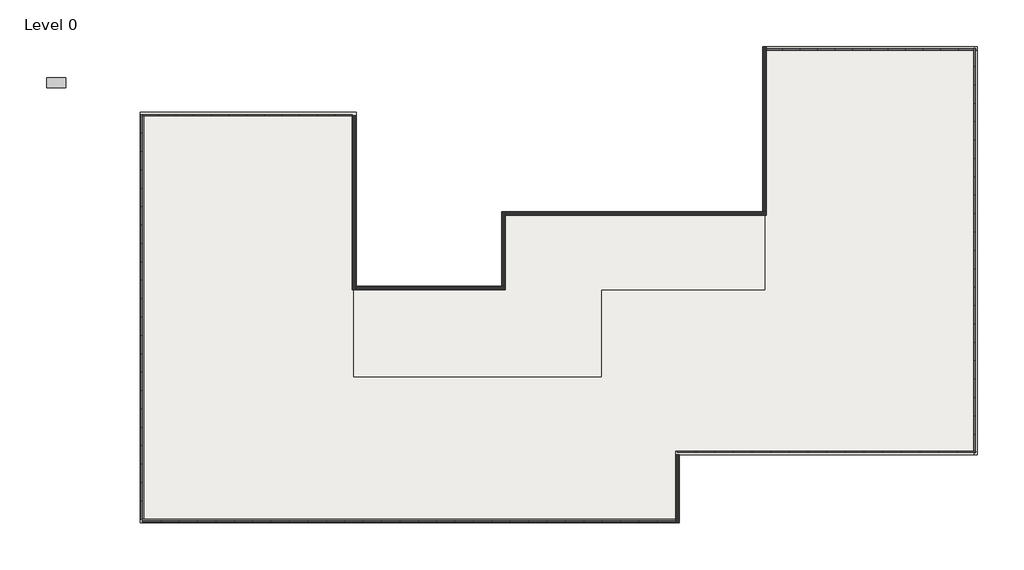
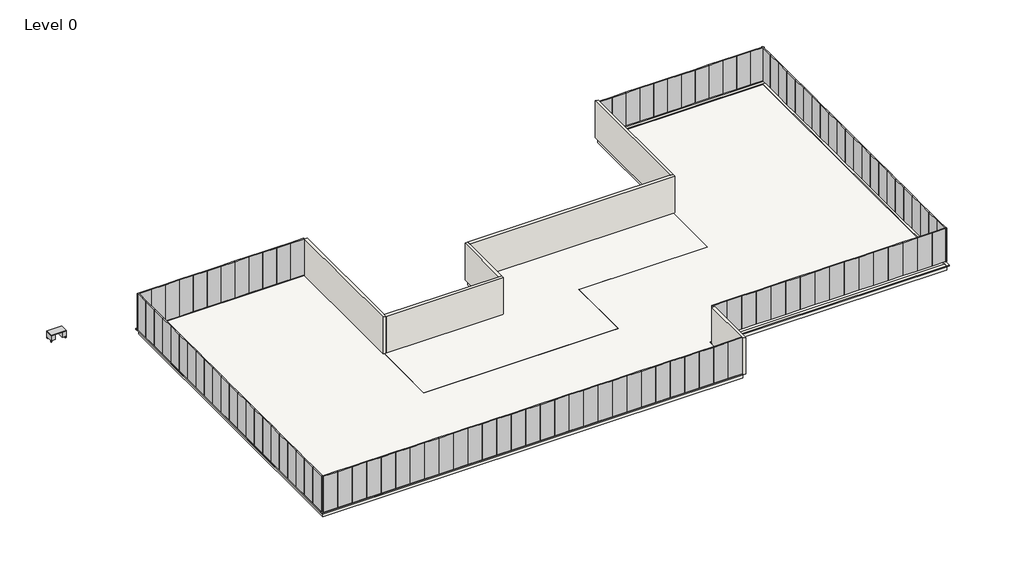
# One storey: 113 plates, 12 walls, 2 slabs, 1 furniture element.
"""IFC4 building model written with IfcOpenShell, lengths in millimetres."""

from ifc_helpers import new_model, si_unit, frame, origin, origin_with_axes, place, context, project, spatial, polyline, outline, extrude, faceted_brep, transform, mapped, element, save
from components import m_desk_1525_x_762mm_d591c397, system_panel_glazed_1c8c9040, system_panel_glazed_b5201366, system_panel_glazed_41508dfd, system_panel_glazed_99405509, system_panel_glazed_24260f19, system_panel_glazed_5fb56a60

model = new_model("IFC4")

# Units and contexts
model_context = context("Model", 3, world=origin())
ifc_project = project(units=[si_unit("LENGTHUNIT", "METRE", prefix="MILLI")], contexts=[model_context])

# Site, building, storey
site = spatial("IfcSite", under=ifc_project)
building = spatial("IfcBuilding", under=site)
storey = spatial("IfcBuildingStorey", under=building, Name="Level 0", Elevation=0.0)

# Furniture
placement = place(None, origin())
m_desk_1525_x_762mm_shape = m_desk_1525_x_762mm_d591c397(model_context)
element("IfcFurniture", 1, ObjectType="M_Desk : 1525 x 762mm", at=placement, inside=storey, context=model_context, shape_type="MappedRepresentation", body=[
    mapped(m_desk_1525_x_762mm_shape, transform((-7595.5542524, 35177.075, 0.0), x_axis=(1.0, 0.0, 0.0), y_axis=(0.0, 1.0, 0.0), z_axis=(0.0, 0.0, 1.0))),
])

# Plates
system_panel_glazed_shape = system_panel_glazed_1c8c9040(model_context)
element("IfcPlate", 2, ObjectType="System Panel : Glazed", at=placement, inside=storey, context=model_context, shape_type="MappedRepresentation", body=[
    mapped(system_panel_glazed_shape, transform((16286.5457475, 33032.075, 100.0), x_axis=(-1.0, 0.0, 0.0), y_axis=(0.0, -1.0, 0.0), z_axis=(0.0, 0.0, 1.0))),
])
element("IfcPlate", 3, ObjectType="System Panel : Glazed", at=placement, inside=storey, context=model_context, shape_type="MappedRepresentation", body=[
    mapped(system_panel_glazed_shape, transform((14864.1457474, 33032.075, 100.0), x_axis=(-1.0, 0.0, 0.0), y_axis=(0.0, -1.0, 0.0), z_axis=(0.0, 0.0, 1.0))),
])
element("IfcPlate", 4, ObjectType="System Panel : Glazed", at=placement, inside=storey, context=model_context, shape_type="MappedRepresentation", body=[
    mapped(system_panel_glazed_shape, transform((13441.7457474, 33032.075, 100.0), x_axis=(-1.0, 0.0, 0.0), y_axis=(0.0, -1.0, 0.0), z_axis=(0.0, 0.0, 1.0))),
])
element("IfcPlate", 5, ObjectType="System Panel : Glazed", at=placement, inside=storey, context=model_context, shape_type="MappedRepresentation", body=[
    mapped(system_panel_glazed_shape, transform((12019.3457475, 33032.075, 100.0), x_axis=(-1.0, 0.0, 0.0), y_axis=(0.0, -1.0, 0.0), z_axis=(0.0, 0.0, 1.0))),
])
element("IfcPlate", 6, ObjectType="System Panel : Glazed", at=placement, inside=storey, context=model_context, shape_type="MappedRepresentation", body=[
    mapped(system_panel_glazed_shape, transform((10596.9457476, 33032.075, 100.0), x_axis=(-1.0, 0.0, 0.0), y_axis=(0.0, -1.0, 0.0), z_axis=(0.0, 0.0, 1.0))),
])
element("IfcPlate", 7, ObjectType="System Panel : Glazed", at=placement, inside=storey, context=model_context, shape_type="MappedRepresentation", body=[
    mapped(system_panel_glazed_shape, transform((9174.5457476, 33032.075, 100.0), x_axis=(-1.0, 0.0, 0.0), y_axis=(0.0, -1.0, 0.0), z_axis=(0.0, 0.0, 1.0))),
])
element("IfcPlate", 8, ObjectType="System Panel : Glazed", at=placement, inside=storey, context=model_context, shape_type="MappedRepresentation", body=[
    mapped(system_panel_glazed_shape, transform((7752.1457477, 33032.075, 100.0), x_axis=(-1.0, 0.0, 0.0), y_axis=(0.0, -1.0, 0.0), z_axis=(0.0, 0.0, 1.0))),
])
element("IfcPlate", 9, ObjectType="System Panel : Glazed", at=placement, inside=storey, context=model_context, shape_type="MappedRepresentation", body=[
    mapped(system_panel_glazed_shape, transform((6329.7457477, 33032.075, 100.0), x_axis=(-1.0, 0.0, 0.0), y_axis=(0.0, -1.0, 0.0), z_axis=(0.0, 0.0, 1.0))),
])
element("IfcPlate", 10, ObjectType="System Panel : Glazed", at=placement, inside=storey, context=model_context, shape_type="MappedRepresentation", body=[
    mapped(system_panel_glazed_shape, transform((4907.3457478, 33032.075, 100.0), x_axis=(-1.0, 0.0, 0.0), y_axis=(0.0, -1.0, 0.0), z_axis=(0.0, 0.0, 1.0))),
])
element("IfcPlate", 11, ObjectType="System Panel : Glazed", at=placement, inside=storey, context=model_context, shape_type="MappedRepresentation", body=[
    mapped(system_panel_glazed_shape, transform((3484.9457478, 33032.075, 100.0), x_axis=(-1.0, 0.0, 0.0), y_axis=(0.0, -1.0, 0.0), z_axis=(0.0, 0.0, 1.0))),
])
element("IfcPlate", 12, ObjectType="System Panel : Glazed", at=placement, inside=storey, context=model_context, shape_type="MappedRepresentation", body=[
    mapped(system_panel_glazed_shape, transform((2062.5457479, 33032.075, 100.0), x_axis=(-1.0, 0.0, 0.0), y_axis=(0.0, -1.0, 0.0), z_axis=(0.0, 0.0, 1.0))),
])
element("IfcPlate", 13, ObjectType="System Panel : Glazed", at=placement, inside=storey, context=model_context, shape_type="MappedRepresentation", body=[
    mapped(system_panel_glazed_shape, transform((640.1457478, 33032.075, 100.0), x_axis=(-1.0, 0.0, 0.0), y_axis=(0.0, -1.0, 0.0), z_axis=(0.0, 0.0, 1.0))),
])
system_panel_glazed_2_shape = system_panel_glazed_b5201366(model_context)
element("IfcPlate", 14, ObjectType="System Panel : Glazed", at=placement, inside=storey, context=model_context, shape_type="MappedRepresentation", body=[
    mapped(system_panel_glazed_2_shape, transform((-71.0542524, 32221.1295453, 100.0), x_axis=(0.0, -1.0, 0.0), y_axis=(1.0, 0.0, 0.0), z_axis=(0.0, 0.0, 1.0))),
])
element("IfcPlate", 15, ObjectType="System Panel : Glazed", at=placement, inside=storey, context=model_context, shape_type="MappedRepresentation", body=[
    mapped(system_panel_glazed_2_shape, transform((-71.0542524, 30742.0386361, 100.0), x_axis=(0.0, -1.0, 0.0), y_axis=(1.0, 0.0, 0.0), z_axis=(0.0, 0.0, 1.0))),
])
element("IfcPlate", 16, ObjectType="System Panel : Glazed", at=placement, inside=storey, context=model_context, shape_type="MappedRepresentation", body=[
    mapped(system_panel_glazed_2_shape, transform((-71.0542524, 29262.947727, 100.0), x_axis=(0.0, -1.0, 0.0), y_axis=(1.0, 0.0, 0.0), z_axis=(0.0, 0.0, 1.0))),
])
element("IfcPlate", 17, ObjectType="System Panel : Glazed", at=placement, inside=storey, context=model_context, shape_type="MappedRepresentation", body=[
    mapped(system_panel_glazed_2_shape, transform((-71.0542524, 27783.856818, 100.0), x_axis=(0.0, -1.0, 0.0), y_axis=(1.0, 0.0, 0.0), z_axis=(0.0, 0.0, 1.0))),
])
element("IfcPlate", 18, ObjectType="System Panel : Glazed", at=placement, inside=storey, context=model_context, shape_type="MappedRepresentation", body=[
    mapped(system_panel_glazed_2_shape, transform((-71.0542524, 26304.7659089, 100.0), x_axis=(0.0, -1.0, 0.0), y_axis=(1.0, 0.0, 0.0), z_axis=(0.0, 0.0, 1.0))),
])
element("IfcPlate", 19, ObjectType="System Panel : Glazed", at=placement, inside=storey, context=model_context, shape_type="MappedRepresentation", body=[
    mapped(system_panel_glazed_2_shape, transform((-71.0542524, 24825.6749998, 100.0), x_axis=(0.0, -1.0, 0.0), y_axis=(1.0, 0.0, 0.0), z_axis=(0.0, 0.0, 1.0))),
])
element("IfcPlate", 20, ObjectType="System Panel : Glazed", at=placement, inside=storey, context=model_context, shape_type="MappedRepresentation", body=[
    mapped(system_panel_glazed_2_shape, transform((-71.0542524, 23346.5840908, 100.0), x_axis=(0.0, -1.0, 0.0), y_axis=(1.0, 0.0, 0.0), z_axis=(0.0, 0.0, 1.0))),
])
element("IfcPlate", 21, ObjectType="System Panel : Glazed", at=placement, inside=storey, context=model_context, shape_type="MappedRepresentation", body=[
    mapped(system_panel_glazed_2_shape, transform((-71.0542524, 21867.4931817, 100.0), x_axis=(0.0, -1.0, 0.0), y_axis=(1.0, 0.0, 0.0), z_axis=(0.0, 0.0, 1.0))),
])
element("IfcPlate", 22, ObjectType="System Panel : Glazed", at=placement, inside=storey, context=model_context, shape_type="MappedRepresentation", body=[
    mapped(system_panel_glazed_2_shape, transform((-71.0542524, 20388.4022726, 100.0), x_axis=(0.0, -1.0, 0.0), y_axis=(1.0, 0.0, 0.0), z_axis=(0.0, 0.0, 1.0))),
])
element("IfcPlate", 23, ObjectType="System Panel : Glazed", at=placement, inside=storey, context=model_context, shape_type="MappedRepresentation", body=[
    mapped(system_panel_glazed_2_shape, transform((-71.0542524, 18909.3113636, 100.0), x_axis=(0.0, -1.0, 0.0), y_axis=(1.0, 0.0, 0.0), z_axis=(0.0, 0.0, 1.0))),
])
element("IfcPlate", 24, ObjectType="System Panel : Glazed", at=placement, inside=storey, context=model_context, shape_type="MappedRepresentation", body=[
    mapped(system_panel_glazed_2_shape, transform((-71.0542524, 17430.2204545, 100.0), x_axis=(0.0, -1.0, 0.0), y_axis=(1.0, 0.0, 0.0), z_axis=(0.0, 0.0, 1.0))),
])
element("IfcPlate", 25, ObjectType="System Panel : Glazed", at=placement, inside=storey, context=model_context, shape_type="MappedRepresentation", body=[
    mapped(system_panel_glazed_2_shape, transform((-71.0542524, 15951.1295454, 100.0), x_axis=(0.0, -1.0, 0.0), y_axis=(1.0, 0.0, 0.0), z_axis=(0.0, 0.0, 1.0))),
])
element("IfcPlate", 26, ObjectType="System Panel : Glazed", at=placement, inside=storey, context=model_context, shape_type="MappedRepresentation", body=[
    mapped(system_panel_glazed_2_shape, transform((-71.0542524, 14472.0386364, 100.0), x_axis=(0.0, -1.0, 0.0), y_axis=(1.0, 0.0, 0.0), z_axis=(0.0, 0.0, 1.0))),
])
element("IfcPlate", 27, ObjectType="System Panel : Glazed", at=placement, inside=storey, context=model_context, shape_type="MappedRepresentation", body=[
    mapped(system_panel_glazed_2_shape, transform((-71.0542524, 12992.9477273, 100.0), x_axis=(0.0, -1.0, 0.0), y_axis=(1.0, 0.0, 0.0), z_axis=(0.0, 0.0, 1.0))),
])
element("IfcPlate", 28, ObjectType="System Panel : Glazed", at=placement, inside=storey, context=model_context, shape_type="MappedRepresentation", body=[
    mapped(system_panel_glazed_2_shape, transform((-71.0542524, 11513.8568183, 100.0), x_axis=(0.0, -1.0, 0.0), y_axis=(1.0, 0.0, 0.0), z_axis=(0.0, 0.0, 1.0))),
])
element("IfcPlate", 29, ObjectType="System Panel : Glazed", at=placement, inside=storey, context=model_context, shape_type="MappedRepresentation", body=[
    mapped(system_panel_glazed_2_shape, transform((-71.0542524, 10034.7659092, 100.0), x_axis=(0.0, -1.0, 0.0), y_axis=(1.0, 0.0, 0.0), z_axis=(0.0, 0.0, 1.0))),
])
element("IfcPlate", 30, ObjectType="System Panel : Glazed", at=placement, inside=storey, context=model_context, shape_type="MappedRepresentation", body=[
    mapped(system_panel_glazed_2_shape, transform((-71.0542524, 8555.6750001, 100.0), x_axis=(0.0, -1.0, 0.0), y_axis=(1.0, 0.0, 0.0), z_axis=(0.0, 0.0, 1.0))),
])
element("IfcPlate", 31, ObjectType="System Panel : Glazed", at=placement, inside=storey, context=model_context, shape_type="MappedRepresentation", body=[
    mapped(system_panel_glazed_2_shape, transform((-71.0542524, 7076.5840911, 100.0), x_axis=(0.0, -1.0, 0.0), y_axis=(1.0, 0.0, 0.0), z_axis=(0.0, 0.0, 1.0))),
])
element("IfcPlate", 32, ObjectType="System Panel : Glazed", at=placement, inside=storey, context=model_context, shape_type="MappedRepresentation", body=[
    mapped(system_panel_glazed_2_shape, transform((-71.0542524, 5597.493182, 100.0), x_axis=(0.0, -1.0, 0.0), y_axis=(1.0, 0.0, 0.0), z_axis=(0.0, 0.0, 1.0))),
])
element("IfcPlate", 33, ObjectType="System Panel : Glazed", at=placement, inside=storey, context=model_context, shape_type="MappedRepresentation", body=[
    mapped(system_panel_glazed_2_shape, transform((-71.0542524, 4118.4022729, 100.0), x_axis=(0.0, -1.0, 0.0), y_axis=(1.0, 0.0, 0.0), z_axis=(0.0, 0.0, 1.0))),
])
element("IfcPlate", 34, ObjectType="System Panel : Glazed", at=placement, inside=storey, context=model_context, shape_type="MappedRepresentation", body=[
    mapped(system_panel_glazed_2_shape, transform((-71.0542524, 2639.3113639, 100.0), x_axis=(0.0, -1.0, 0.0), y_axis=(1.0, 0.0, 0.0), z_axis=(0.0, 0.0, 1.0))),
])
element("IfcPlate", 35, ObjectType="System Panel : Glazed", at=placement, inside=storey, context=model_context, shape_type="MappedRepresentation", body=[
    mapped(system_panel_glazed_2_shape, transform((-71.0542524, 1160.2204547, 100.0), x_axis=(0.0, -1.0, 0.0), y_axis=(1.0, 0.0, 0.0), z_axis=(0.0, 0.0, 1.0))),
])
system_panel_glazed_3_shape = system_panel_glazed_41508dfd(model_context)
element("IfcPlate", 36, ObjectType="System Panel : Glazed", at=placement, inside=storey, context=model_context, shape_type="MappedRepresentation", body=[
    mapped(system_panel_glazed_3_shape, transform((43879.9457478, 5772.075, 450.0), x_axis=(1.0, 0.0, 0.0), y_axis=(0.0, 1.0, 0.0), z_axis=(0.0, 0.0, 1.0))),
])
element("IfcPlate", 37, ObjectType="System Panel : Glazed", at=placement, inside=storey, context=model_context, shape_type="MappedRepresentation", body=[
    mapped(system_panel_glazed_3_shape, transform((45379.9457479, 5772.075, 450.0), x_axis=(1.0, 0.0, 0.0), y_axis=(0.0, 1.0, 0.0), z_axis=(0.0, 0.0, 1.0))),
])
element("IfcPlate", 38, ObjectType="System Panel : Glazed", at=placement, inside=storey, context=model_context, shape_type="MappedRepresentation", body=[
    mapped(system_panel_glazed_3_shape, transform((46879.9457478, 5772.075, 450.0), x_axis=(1.0, 0.0, 0.0), y_axis=(0.0, 1.0, 0.0), z_axis=(0.0, 0.0, 1.0))),
])
element("IfcPlate", 39, ObjectType="System Panel : Glazed", at=placement, inside=storey, context=model_context, shape_type="MappedRepresentation", body=[
    mapped(system_panel_glazed_3_shape, transform((48379.9457478, 5772.075, 450.0), x_axis=(1.0, 0.0, 0.0), y_axis=(0.0, 1.0, 0.0), z_axis=(0.0, 0.0, 1.0))),
])
element("IfcPlate", 40, ObjectType="System Panel : Glazed", at=placement, inside=storey, context=model_context, shape_type="MappedRepresentation", body=[
    mapped(system_panel_glazed_3_shape, transform((49879.9457478, 5772.075, 450.0), x_axis=(1.0, 0.0, 0.0), y_axis=(0.0, 1.0, 0.0), z_axis=(0.0, 0.0, 1.0))),
])
element("IfcPlate", 41, ObjectType="System Panel : Glazed", at=placement, inside=storey, context=model_context, shape_type="MappedRepresentation", body=[
    mapped(system_panel_glazed_3_shape, transform((51379.9457477, 5772.075, 450.0), x_axis=(1.0, 0.0, 0.0), y_axis=(0.0, 1.0, 0.0), z_axis=(0.0, 0.0, 1.0))),
])
element("IfcPlate", 42, ObjectType="System Panel : Glazed", at=placement, inside=storey, context=model_context, shape_type="MappedRepresentation", body=[
    mapped(system_panel_glazed_3_shape, transform((52879.9457477, 5772.075, 450.0), x_axis=(1.0, 0.0, 0.0), y_axis=(0.0, 1.0, 0.0), z_axis=(0.0, 0.0, 1.0))),
])
element("IfcPlate", 43, ObjectType="System Panel : Glazed", at=placement, inside=storey, context=model_context, shape_type="MappedRepresentation", body=[
    mapped(system_panel_glazed_3_shape, transform((54379.9457476, 5772.075, 450.0), x_axis=(1.0, 0.0, 0.0), y_axis=(0.0, 1.0, 0.0), z_axis=(0.0, 0.0, 1.0))),
])
element("IfcPlate", 44, ObjectType="System Panel : Glazed", at=placement, inside=storey, context=model_context, shape_type="MappedRepresentation", body=[
    mapped(system_panel_glazed_3_shape, transform((55879.9457476, 5772.075, 450.0), x_axis=(1.0, 0.0, 0.0), y_axis=(0.0, 1.0, 0.0), z_axis=(0.0, 0.0, 1.0))),
])
element("IfcPlate", 45, ObjectType="System Panel : Glazed", at=placement, inside=storey, context=model_context, shape_type="MappedRepresentation", body=[
    mapped(system_panel_glazed_3_shape, transform((57379.9457476, 5772.075, 450.0), x_axis=(1.0, 0.0, 0.0), y_axis=(0.0, 1.0, 0.0), z_axis=(0.0, 0.0, 1.0))),
])
element("IfcPlate", 46, ObjectType="System Panel : Glazed", at=placement, inside=storey, context=model_context, shape_type="MappedRepresentation", body=[
    mapped(system_panel_glazed_3_shape, transform((58879.9457475, 5772.075, 450.0), x_axis=(1.0, 0.0, 0.0), y_axis=(0.0, 1.0, 0.0), z_axis=(0.0, 0.0, 1.0))),
])
element("IfcPlate", 47, ObjectType="System Panel : Glazed", at=placement, inside=storey, context=model_context, shape_type="MappedRepresentation", body=[
    mapped(system_panel_glazed_3_shape, transform((60379.9457475, 5772.075, 450.0), x_axis=(1.0, 0.0, 0.0), y_axis=(0.0, 1.0, 0.0), z_axis=(0.0, 0.0, 1.0))),
])
element("IfcPlate", 48, ObjectType="System Panel : Glazed", at=placement, inside=storey, context=model_context, shape_type="MappedRepresentation", body=[
    mapped(system_panel_glazed_3_shape, transform((61879.9457475, 5772.075, 450.0), x_axis=(1.0, 0.0, 0.0), y_axis=(0.0, 1.0, 0.0), z_axis=(0.0, 0.0, 1.0))),
])
element("IfcPlate", 49, ObjectType="System Panel : Glazed", at=placement, inside=storey, context=model_context, shape_type="MappedRepresentation", body=[
    mapped(system_panel_glazed_3_shape, transform((63379.9457474, 5772.075, 450.0), x_axis=(1.0, 0.0, 0.0), y_axis=(0.0, 1.0, 0.0), z_axis=(0.0, 0.0, 1.0))),
])
element("IfcPlate", 50, ObjectType="System Panel : Glazed", at=placement, inside=storey, context=model_context, shape_type="MappedRepresentation", body=[
    mapped(system_panel_glazed_3_shape, transform((64879.9457474, 5772.075, 450.0), x_axis=(1.0, 0.0, 0.0), y_axis=(0.0, 1.0, 0.0), z_axis=(0.0, 0.0, 1.0))),
])
element("IfcPlate", 51, ObjectType="System Panel : Glazed", at=placement, inside=storey, context=model_context, shape_type="MappedRepresentation", body=[
    mapped(system_panel_glazed_3_shape, transform((66379.9457475, 5772.075, 450.0), x_axis=(1.0, 0.0, 0.0), y_axis=(0.0, 1.0, 0.0), z_axis=(0.0, 0.0, 1.0))),
])
system_panel_glazed_4_shape = system_panel_glazed_99405509(model_context)
element("IfcPlate", 52, ObjectType="System Panel : Glazed", at=placement, inside=storey, context=model_context, shape_type="MappedRepresentation", body=[
    mapped(system_panel_glazed_4_shape, transform((67129.9457476, 6511.8477274, 450.0), x_axis=(0.0, 1.0, 0.0), y_axis=(-1.0, 0.0, 0.0), z_axis=(0.0, 0.0, 1.0))),
])
element("IfcPlate", 53, ObjectType="System Panel : Glazed", at=placement, inside=storey, context=model_context, shape_type="MappedRepresentation", body=[
    mapped(system_panel_glazed_4_shape, transform((67129.9457476, 7991.3931821, 450.0), x_axis=(0.0, 1.0, 0.0), y_axis=(-1.0, 0.0, 0.0), z_axis=(0.0, 0.0, 1.0))),
])
element("IfcPlate", 54, ObjectType="System Panel : Glazed", at=placement, inside=storey, context=model_context, shape_type="MappedRepresentation", body=[
    mapped(system_panel_glazed_4_shape, transform((67129.9457476, 9470.9386366, 450.0), x_axis=(0.0, 1.0, 0.0), y_axis=(-1.0, 0.0, 0.0), z_axis=(0.0, 0.0, 1.0))),
])
element("IfcPlate", 55, ObjectType="System Panel : Glazed", at=placement, inside=storey, context=model_context, shape_type="MappedRepresentation", body=[
    mapped(system_panel_glazed_4_shape, transform((67129.9457476, 10950.4840911, 450.0), x_axis=(0.0, 1.0, 0.0), y_axis=(-1.0, 0.0, 0.0), z_axis=(0.0, 0.0, 1.0))),
])
element("IfcPlate", 56, ObjectType="System Panel : Glazed", at=placement, inside=storey, context=model_context, shape_type="MappedRepresentation", body=[
    mapped(system_panel_glazed_4_shape, transform((67129.9457476, 12430.0295456, 450.0), x_axis=(0.0, 1.0, 0.0), y_axis=(-1.0, 0.0, 0.0), z_axis=(0.0, 0.0, 1.0))),
])
element("IfcPlate", 57, ObjectType="System Panel : Glazed", at=placement, inside=storey, context=model_context, shape_type="MappedRepresentation", body=[
    mapped(system_panel_glazed_4_shape, transform((67129.9457476, 13909.5750001, 450.0), x_axis=(0.0, 1.0, 0.0), y_axis=(-1.0, 0.0, 0.0), z_axis=(0.0, 0.0, 1.0))),
])
element("IfcPlate", 58, ObjectType="System Panel : Glazed", at=placement, inside=storey, context=model_context, shape_type="MappedRepresentation", body=[
    mapped(system_panel_glazed_4_shape, transform((67129.9457476, 15389.1204546, 450.0), x_axis=(0.0, 1.0, 0.0), y_axis=(-1.0, 0.0, 0.0), z_axis=(0.0, 0.0, 1.0))),
])
element("IfcPlate", 59, ObjectType="System Panel : Glazed", at=placement, inside=storey, context=model_context, shape_type="MappedRepresentation", body=[
    mapped(system_panel_glazed_4_shape, transform((67129.9457476, 16868.6659092, 450.0), x_axis=(0.0, 1.0, 0.0), y_axis=(-1.0, 0.0, 0.0), z_axis=(0.0, 0.0, 1.0))),
])
element("IfcPlate", 60, ObjectType="System Panel : Glazed", at=placement, inside=storey, context=model_context, shape_type="MappedRepresentation", body=[
    mapped(system_panel_glazed_4_shape, transform((67129.9457476, 18348.2113637, 450.0), x_axis=(0.0, 1.0, 0.0), y_axis=(-1.0, 0.0, 0.0), z_axis=(0.0, 0.0, 1.0))),
])
element("IfcPlate", 61, ObjectType="System Panel : Glazed", at=placement, inside=storey, context=model_context, shape_type="MappedRepresentation", body=[
    mapped(system_panel_glazed_4_shape, transform((67129.9457476, 19827.7568182, 450.0), x_axis=(0.0, 1.0, 0.0), y_axis=(-1.0, 0.0, 0.0), z_axis=(0.0, 0.0, 1.0))),
])
element("IfcPlate", 62, ObjectType="System Panel : Glazed", at=placement, inside=storey, context=model_context, shape_type="MappedRepresentation", body=[
    mapped(system_panel_glazed_4_shape, transform((67129.9457476, 21307.3022727, 450.0), x_axis=(0.0, 1.0, 0.0), y_axis=(-1.0, 0.0, 0.0), z_axis=(0.0, 0.0, 1.0))),
])
element("IfcPlate", 63, ObjectType="System Panel : Glazed", at=placement, inside=storey, context=model_context, shape_type="MappedRepresentation", body=[
    mapped(system_panel_glazed_4_shape, transform((67129.9457476, 22786.8477272, 450.0), x_axis=(0.0, 1.0, 0.0), y_axis=(-1.0, 0.0, 0.0), z_axis=(0.0, 0.0, 1.0))),
])
element("IfcPlate", 64, ObjectType="System Panel : Glazed", at=placement, inside=storey, context=model_context, shape_type="MappedRepresentation", body=[
    mapped(system_panel_glazed_4_shape, transform((67129.9457476, 24266.3931818, 450.0), x_axis=(0.0, 1.0, 0.0), y_axis=(-1.0, 0.0, 0.0), z_axis=(0.0, 0.0, 1.0))),
])
element("IfcPlate", 65, ObjectType="System Panel : Glazed", at=placement, inside=storey, context=model_context, shape_type="MappedRepresentation", body=[
    mapped(system_panel_glazed_4_shape, transform((67129.9457476, 25745.9386363, 450.0), x_axis=(0.0, 1.0, 0.0), y_axis=(-1.0, 0.0, 0.0), z_axis=(0.0, 0.0, 1.0))),
])
element("IfcPlate", 66, ObjectType="System Panel : Glazed", at=placement, inside=storey, context=model_context, shape_type="MappedRepresentation", body=[
    mapped(system_panel_glazed_4_shape, transform((67129.9457476, 27225.4840908, 450.0), x_axis=(0.0, 1.0, 0.0), y_axis=(-1.0, 0.0, 0.0), z_axis=(0.0, 0.0, 1.0))),
])
element("IfcPlate", 67, ObjectType="System Panel : Glazed", at=placement, inside=storey, context=model_context, shape_type="MappedRepresentation", body=[
    mapped(system_panel_glazed_4_shape, transform((67129.9457476, 28705.0295453, 450.0), x_axis=(0.0, 1.0, 0.0), y_axis=(-1.0, 0.0, 0.0), z_axis=(0.0, 0.0, 1.0))),
])
element("IfcPlate", 68, ObjectType="System Panel : Glazed", at=placement, inside=storey, context=model_context, shape_type="MappedRepresentation", body=[
    mapped(system_panel_glazed_4_shape, transform((67129.9457476, 30184.5749998, 450.0), x_axis=(0.0, 1.0, 0.0), y_axis=(-1.0, 0.0, 0.0), z_axis=(0.0, 0.0, 1.0))),
])
element("IfcPlate", 69, ObjectType="System Panel : Glazed", at=placement, inside=storey, context=model_context, shape_type="MappedRepresentation", body=[
    mapped(system_panel_glazed_4_shape, transform((67129.9457476, 31664.1204543, 450.0), x_axis=(0.0, 1.0, 0.0), y_axis=(-1.0, 0.0, 0.0), z_axis=(0.0, 0.0, 1.0))),
])
element("IfcPlate", 70, ObjectType="System Panel : Glazed", at=placement, inside=storey, context=model_context, shape_type="MappedRepresentation", body=[
    mapped(system_panel_glazed_4_shape, transform((67129.9457476, 33143.6659089, 450.0), x_axis=(0.0, 1.0, 0.0), y_axis=(-1.0, 0.0, 0.0), z_axis=(0.0, 0.0, 1.0))),
])
element("IfcPlate", 71, ObjectType="System Panel : Glazed", at=placement, inside=storey, context=model_context, shape_type="MappedRepresentation", body=[
    mapped(system_panel_glazed_4_shape, transform((67129.9457476, 34623.2113634, 450.0), x_axis=(0.0, 1.0, 0.0), y_axis=(-1.0, 0.0, 0.0), z_axis=(0.0, 0.0, 1.0))),
])
element("IfcPlate", 72, ObjectType="System Panel : Glazed", at=placement, inside=storey, context=model_context, shape_type="MappedRepresentation", body=[
    mapped(system_panel_glazed_4_shape, transform((67129.9457476, 36102.7568179, 450.0), x_axis=(0.0, 1.0, 0.0), y_axis=(-1.0, 0.0, 0.0), z_axis=(0.0, 0.0, 1.0))),
])
element("IfcPlate", 73, ObjectType="System Panel : Glazed", at=placement, inside=storey, context=model_context, shape_type="MappedRepresentation", body=[
    mapped(system_panel_glazed_4_shape, transform((67129.9457476, 37582.3022726, 450.0), x_axis=(0.0, 1.0, 0.0), y_axis=(-1.0, 0.0, 0.0), z_axis=(0.0, 0.0, 1.0))),
])
system_panel_glazed_5_shape = system_panel_glazed_24260f19(model_context)
element("IfcPlate", 74, ObjectType="System Panel : Glazed", at=placement, inside=storey, context=model_context, shape_type="MappedRepresentation", body=[
    mapped(system_panel_glazed_5_shape, transform((66422.1457475, 38322.075, 450.0), x_axis=(-1.0, 0.0, 0.0), y_axis=(0.0, -1.0, 0.0), z_axis=(0.0, 0.0, 1.0))),
])
element("IfcPlate", 75, ObjectType="System Panel : Glazed", at=placement, inside=storey, context=model_context, shape_type="MappedRepresentation", body=[
    mapped(system_panel_glazed_5_shape, transform((65006.5457474, 38322.075, 450.0), x_axis=(-1.0, 0.0, 0.0), y_axis=(0.0, -1.0, 0.0), z_axis=(0.0, 0.0, 1.0))),
])
element("IfcPlate", 76, ObjectType="System Panel : Glazed", at=placement, inside=storey, context=model_context, shape_type="MappedRepresentation", body=[
    mapped(system_panel_glazed_5_shape, transform((63590.9457474, 38322.075, 450.0), x_axis=(-1.0, 0.0, 0.0), y_axis=(0.0, -1.0, 0.0), z_axis=(0.0, 0.0, 1.0))),
])
element("IfcPlate", 77, ObjectType="System Panel : Glazed", at=placement, inside=storey, context=model_context, shape_type="MappedRepresentation", body=[
    mapped(system_panel_glazed_5_shape, transform((62175.3457475, 38322.075, 450.0), x_axis=(-1.0, 0.0, 0.0), y_axis=(0.0, -1.0, 0.0), z_axis=(0.0, 0.0, 1.0))),
])
element("IfcPlate", 78, ObjectType="System Panel : Glazed", at=placement, inside=storey, context=model_context, shape_type="MappedRepresentation", body=[
    mapped(system_panel_glazed_5_shape, transform((60759.7457476, 38322.075, 450.0), x_axis=(-1.0, 0.0, 0.0), y_axis=(0.0, -1.0, 0.0), z_axis=(0.0, 0.0, 1.0))),
])
element("IfcPlate", 79, ObjectType="System Panel : Glazed", at=placement, inside=storey, context=model_context, shape_type="MappedRepresentation", body=[
    mapped(system_panel_glazed_5_shape, transform((59344.1457476, 38322.075, 450.0), x_axis=(-1.0, 0.0, 0.0), y_axis=(0.0, -1.0, 0.0), z_axis=(0.0, 0.0, 1.0))),
])
element("IfcPlate", 80, ObjectType="System Panel : Glazed", at=placement, inside=storey, context=model_context, shape_type="MappedRepresentation", body=[
    mapped(system_panel_glazed_5_shape, transform((57928.5457477, 38322.075, 450.0), x_axis=(-1.0, 0.0, 0.0), y_axis=(0.0, -1.0, 0.0), z_axis=(0.0, 0.0, 1.0))),
])
element("IfcPlate", 81, ObjectType="System Panel : Glazed", at=placement, inside=storey, context=model_context, shape_type="MappedRepresentation", body=[
    mapped(system_panel_glazed_5_shape, transform((56512.9457477, 38322.075, 450.0), x_axis=(-1.0, 0.0, 0.0), y_axis=(0.0, -1.0, 0.0), z_axis=(0.0, 0.0, 1.0))),
])
element("IfcPlate", 82, ObjectType="System Panel : Glazed", at=placement, inside=storey, context=model_context, shape_type="MappedRepresentation", body=[
    mapped(system_panel_glazed_5_shape, transform((55097.3457478, 38322.075, 450.0), x_axis=(-1.0, 0.0, 0.0), y_axis=(0.0, -1.0, 0.0), z_axis=(0.0, 0.0, 1.0))),
])
element("IfcPlate", 83, ObjectType="System Panel : Glazed", at=placement, inside=storey, context=model_context, shape_type="MappedRepresentation", body=[
    mapped(system_panel_glazed_5_shape, transform((53681.7457478, 38322.075, 450.0), x_axis=(-1.0, 0.0, 0.0), y_axis=(0.0, -1.0, 0.0), z_axis=(0.0, 0.0, 1.0))),
])
element("IfcPlate", 84, ObjectType="System Panel : Glazed", at=placement, inside=storey, context=model_context, shape_type="MappedRepresentation", body=[
    mapped(system_panel_glazed_5_shape, transform((52266.1457479, 38322.075, 450.0), x_axis=(-1.0, 0.0, 0.0), y_axis=(0.0, -1.0, 0.0), z_axis=(0.0, 0.0, 1.0))),
])
element("IfcPlate", 85, ObjectType="System Panel : Glazed", at=placement, inside=storey, context=model_context, shape_type="MappedRepresentation", body=[
    mapped(system_panel_glazed_5_shape, transform((50850.5457478, 38322.075, 450.0), x_axis=(-1.0, 0.0, 0.0), y_axis=(0.0, -1.0, 0.0), z_axis=(0.0, 0.0, 1.0))),
])
system_panel_glazed_6_shape = system_panel_glazed_5fb56a60(model_context)
element("IfcPlate", 86, ObjectType="System Panel : Glazed", at=placement, inside=storey, context=model_context, shape_type="MappedRepresentation", body=[
    mapped(system_panel_glazed_6_shape, transform((813.7905754, 370.675, 100.0), x_axis=(1.0, 0.0, 0.0), y_axis=(0.0, 1.0, 0.0), z_axis=(0.0, 0.0, 1.0))),
])
element("IfcPlate", 87, ObjectType="System Panel : Glazed", at=placement, inside=storey, context=model_context, shape_type="MappedRepresentation", body=[
    mapped(system_panel_glazed_6_shape, transform((2293.4802307, 370.675, 100.0), x_axis=(1.0, 0.0, 0.0), y_axis=(0.0, 1.0, 0.0), z_axis=(0.0, 0.0, 1.0))),
])
element("IfcPlate", 88, ObjectType="System Panel : Glazed", at=placement, inside=storey, context=model_context, shape_type="MappedRepresentation", body=[
    mapped(system_panel_glazed_6_shape, transform((3773.1698858, 370.675, 100.0), x_axis=(1.0, 0.0, 0.0), y_axis=(0.0, 1.0, 0.0), z_axis=(0.0, 0.0, 1.0))),
])
element("IfcPlate", 89, ObjectType="System Panel : Glazed", at=placement, inside=storey, context=model_context, shape_type="MappedRepresentation", body=[
    mapped(system_panel_glazed_6_shape, transform((5252.859541, 370.675, 100.0), x_axis=(1.0, 0.0, 0.0), y_axis=(0.0, 1.0, 0.0), z_axis=(0.0, 0.0, 1.0))),
])
element("IfcPlate", 90, ObjectType="System Panel : Glazed", at=placement, inside=storey, context=model_context, shape_type="MappedRepresentation", body=[
    mapped(system_panel_glazed_6_shape, transform((6732.5491961, 370.675, 100.0), x_axis=(1.0, 0.0, 0.0), y_axis=(0.0, 1.0, 0.0), z_axis=(0.0, 0.0, 1.0))),
])
element("IfcPlate", 91, ObjectType="System Panel : Glazed", at=placement, inside=storey, context=model_context, shape_type="MappedRepresentation", body=[
    mapped(system_panel_glazed_6_shape, transform((8212.2388513, 370.675, 100.0), x_axis=(1.0, 0.0, 0.0), y_axis=(0.0, 1.0, 0.0), z_axis=(0.0, 0.0, 1.0))),
])
element("IfcPlate", 92, ObjectType="System Panel : Glazed", at=placement, inside=storey, context=model_context, shape_type="MappedRepresentation", body=[
    mapped(system_panel_glazed_6_shape, transform((9691.9285064, 370.675, 100.0), x_axis=(1.0, 0.0, 0.0), y_axis=(0.0, 1.0, 0.0), z_axis=(0.0, 0.0, 1.0))),
])
element("IfcPlate", 93, ObjectType="System Panel : Glazed", at=placement, inside=storey, context=model_context, shape_type="MappedRepresentation", body=[
    mapped(system_panel_glazed_6_shape, transform((11171.6181616, 370.675, 100.0), x_axis=(1.0, 0.0, 0.0), y_axis=(0.0, 1.0, 0.0), z_axis=(0.0, 0.0, 1.0))),
])
element("IfcPlate", 94, ObjectType="System Panel : Glazed", at=placement, inside=storey, context=model_context, shape_type="MappedRepresentation", body=[
    mapped(system_panel_glazed_6_shape, transform((12651.3078167, 370.675, 100.0), x_axis=(1.0, 0.0, 0.0), y_axis=(0.0, 1.0, 0.0), z_axis=(0.0, 0.0, 1.0))),
])
element("IfcPlate", 95, ObjectType="System Panel : Glazed", at=placement, inside=storey, context=model_context, shape_type="MappedRepresentation", body=[
    mapped(system_panel_glazed_6_shape, transform((14130.9974719, 370.675, 100.0), x_axis=(1.0, 0.0, 0.0), y_axis=(0.0, 1.0, 0.0), z_axis=(0.0, 0.0, 1.0))),
])
element("IfcPlate", 96, ObjectType="System Panel : Glazed", at=placement, inside=storey, context=model_context, shape_type="MappedRepresentation", body=[
    mapped(system_panel_glazed_6_shape, transform((15610.687127, 370.675, 100.0), x_axis=(1.0, 0.0, 0.0), y_axis=(0.0, 1.0, 0.0), z_axis=(0.0, 0.0, 1.0))),
])
element("IfcPlate", 97, ObjectType="System Panel : Glazed", at=placement, inside=storey, context=model_context, shape_type="MappedRepresentation", body=[
    mapped(system_panel_glazed_6_shape, transform((17090.3767822, 370.675, 100.0), x_axis=(1.0, 0.0, 0.0), y_axis=(0.0, 1.0, 0.0), z_axis=(0.0, 0.0, 1.0))),
])
element("IfcPlate", 98, ObjectType="System Panel : Glazed", at=placement, inside=storey, context=model_context, shape_type="MappedRepresentation", body=[
    mapped(system_panel_glazed_6_shape, transform((18570.0664373, 370.675, 100.0), x_axis=(1.0, 0.0, 0.0), y_axis=(0.0, 1.0, 0.0), z_axis=(0.0, 0.0, 1.0))),
])
element("IfcPlate", 99, ObjectType="System Panel : Glazed", at=placement, inside=storey, context=model_context, shape_type="MappedRepresentation", body=[
    mapped(system_panel_glazed_6_shape, transform((20049.7560925, 370.675, 100.0), x_axis=(1.0, 0.0, 0.0), y_axis=(0.0, 1.0, 0.0), z_axis=(0.0, 0.0, 1.0))),
])
element("IfcPlate", 100, ObjectType="System Panel : Glazed", at=placement, inside=storey, context=model_context, shape_type="MappedRepresentation", body=[
    mapped(system_panel_glazed_6_shape, transform((21529.4457476, 370.675, 100.0), x_axis=(1.0, 0.0, 0.0), y_axis=(0.0, 1.0, 0.0), z_axis=(0.0, 0.0, 1.0))),
])
element("IfcPlate", 101, ObjectType="System Panel : Glazed", at=placement, inside=storey, context=model_context, shape_type="MappedRepresentation", body=[
    mapped(system_panel_glazed_6_shape, transform((23009.1354028, 370.675, 100.0), x_axis=(1.0, 0.0, 0.0), y_axis=(0.0, 1.0, 0.0), z_axis=(0.0, 0.0, 1.0))),
])
element("IfcPlate", 102, ObjectType="System Panel : Glazed", at=placement, inside=storey, context=model_context, shape_type="MappedRepresentation", body=[
    mapped(system_panel_glazed_6_shape, transform((24488.8250579, 370.675, 100.0), x_axis=(1.0, 0.0, 0.0), y_axis=(0.0, 1.0, 0.0), z_axis=(0.0, 0.0, 1.0))),
])
element("IfcPlate", 103, ObjectType="System Panel : Glazed", at=placement, inside=storey, context=model_context, shape_type="MappedRepresentation", body=[
    mapped(system_panel_glazed_6_shape, transform((25968.5147131, 370.675, 100.0), x_axis=(1.0, 0.0, 0.0), y_axis=(0.0, 1.0, 0.0), z_axis=(0.0, 0.0, 1.0))),
])
element("IfcPlate", 104, ObjectType="System Panel : Glazed", at=placement, inside=storey, context=model_context, shape_type="MappedRepresentation", body=[
    mapped(system_panel_glazed_6_shape, transform((27448.2043682, 370.675, 100.0), x_axis=(1.0, 0.0, 0.0), y_axis=(0.0, 1.0, 0.0), z_axis=(0.0, 0.0, 1.0))),
])
element("IfcPlate", 105, ObjectType="System Panel : Glazed", at=placement, inside=storey, context=model_context, shape_type="MappedRepresentation", body=[
    mapped(system_panel_glazed_6_shape, transform((28927.8940234, 370.675, 100.0), x_axis=(1.0, 0.0, 0.0), y_axis=(0.0, 1.0, 0.0), z_axis=(0.0, 0.0, 1.0))),
])
element("IfcPlate", 106, ObjectType="System Panel : Glazed", at=placement, inside=storey, context=model_context, shape_type="MappedRepresentation", body=[
    mapped(system_panel_glazed_6_shape, transform((30407.5836785, 370.675, 100.0), x_axis=(1.0, 0.0, 0.0), y_axis=(0.0, 1.0, 0.0), z_axis=(0.0, 0.0, 1.0))),
])
element("IfcPlate", 107, ObjectType="System Panel : Glazed", at=placement, inside=storey, context=model_context, shape_type="MappedRepresentation", body=[
    mapped(system_panel_glazed_6_shape, transform((31887.2733337, 370.675, 100.0), x_axis=(1.0, 0.0, 0.0), y_axis=(0.0, 1.0, 0.0), z_axis=(0.0, 0.0, 1.0))),
])
element("IfcPlate", 108, ObjectType="System Panel : Glazed", at=placement, inside=storey, context=model_context, shape_type="MappedRepresentation", body=[
    mapped(system_panel_glazed_6_shape, transform((33366.9629888, 370.675, 100.0), x_axis=(1.0, 0.0, 0.0), y_axis=(0.0, 1.0, 0.0), z_axis=(0.0, 0.0, 1.0))),
])
element("IfcPlate", 109, ObjectType="System Panel : Glazed", at=placement, inside=storey, context=model_context, shape_type="MappedRepresentation", body=[
    mapped(system_panel_glazed_6_shape, transform((34846.652644, 370.675, 100.0), x_axis=(1.0, 0.0, 0.0), y_axis=(0.0, 1.0, 0.0), z_axis=(0.0, 0.0, 1.0))),
])
element("IfcPlate", 110, ObjectType="System Panel : Glazed", at=placement, inside=storey, context=model_context, shape_type="MappedRepresentation", body=[
    mapped(system_panel_glazed_6_shape, transform((36326.3422991, 370.675, 100.0), x_axis=(1.0, 0.0, 0.0), y_axis=(0.0, 1.0, 0.0), z_axis=(0.0, 0.0, 1.0))),
])
element("IfcPlate", 111, ObjectType="System Panel : Glazed", at=placement, inside=storey, context=model_context, shape_type="MappedRepresentation", body=[
    mapped(system_panel_glazed_6_shape, transform((37806.0319543, 370.675, 100.0), x_axis=(1.0, 0.0, 0.0), y_axis=(0.0, 1.0, 0.0), z_axis=(0.0, 0.0, 1.0))),
])
element("IfcPlate", 112, ObjectType="System Panel : Glazed", at=placement, inside=storey, context=model_context, shape_type="MappedRepresentation", body=[
    mapped(system_panel_glazed_6_shape, transform((39285.7216094, 370.675, 100.0), x_axis=(1.0, 0.0, 0.0), y_axis=(0.0, 1.0, 0.0), z_axis=(0.0, 0.0, 1.0))),
])
element("IfcPlate", 113, ObjectType="System Panel : Glazed", at=placement, inside=storey, context=model_context, shape_type="MappedRepresentation", body=[
    mapped(system_panel_glazed_6_shape, transform((40765.4112646, 370.675, 100.0), x_axis=(1.0, 0.0, 0.0), y_axis=(0.0, 1.0, 0.0), z_axis=(0.0, 0.0, 1.0))),
])
element("IfcPlate", 114, ObjectType="System Panel : Glazed", at=placement, inside=storey, context=model_context, shape_type="MappedRepresentation", body=[
    mapped(system_panel_glazed_6_shape, transform((42245.1009199, 370.675, 100.0), x_axis=(1.0, 0.0, 0.0), y_axis=(0.0, 1.0, 0.0), z_axis=(0.0, 0.0, 1.0))),
])

# Slabs
element("IfcSlab", 115, ObjectType="Floor-Grnd-Susp_65Scr-80Ins-100Blk-75PC", at=placement, inside=storey, context=model_context, shape_type="SweptSolid", body=[
    extrude(outline(polyline([(17110.2457476, 32999.575), (17110.2457476, 11887.075), (36997.7457476, 11887.075), (36997.7457476, 18887.075), (50175.2457476, 18887.075), (50175.2457476, 38289.575), (67097.4457476, 38289.575), (67097.4457476, 5804.575), (43097.4457476, 5804.575), (43097.4457476, 318.175), (106.4457476, 318.175), (106.4457476, 32999.575), (17110.2457476, 32999.575)])), frame((0.0, 0.0, -470.0), z_axis=(0.0, 0.0, 1.0), x_axis=(1.0, 0.0, 0.0)), (0.0, 0.0, 1.0), 470.0),
])
element("IfcSlab", 116, ObjectType="Floor-Grnd-Susp_65Scr-80Ins-100Blk-75PC", at=placement, inside=storey, context=model_context, shape_type="SweptSolid", body=[
    extrude(outline(polyline([(17110.2457476, 11887.075), (17110.2457476, 18999.575), (29175.2457476, 18999.575), (29175.2457476, 24999.575), (50175.2457476, 24999.575), (50175.2457476, 18887.075), (36997.7457476, 18887.075), (36997.7457476, 11887.075), (17110.2457476, 11887.075)])), frame((0.0, 0.0, -470.0), z_axis=(0.0, 0.0, 1.0), x_axis=(1.0, 0.0, 0.0)), (0.0, 0.0, 1.0), 470.0),
])

# Walls
element("IfcWall", 117, ObjectType="Wall-Ext_102Bwk-75Ins-100LBlk-12P", at=placement, inside=storey, context=model_context, shape_type="Brep", body=[
    faceted_brep([(-71.0542524, 32887.075, 0.0), (218.9457476, 32887.075, 0.0), (16997.7457476, 32887.075, 0.0), (17287.7457476, 32887.075, 0.0), (17287.7457476, 32887.075, 100.0), (218.9457476, 32887.075, 100.0), (-71.0542524, 32887.075, 100.0), (-71.0542524, 33177.075, 0.0), (-71.0542524, 33177.075, 100.0), (17287.7457476, 33177.075, 100.0), (17287.7457476, 33177.075, 0.0)], [[[0, 1, 2, 3, 4, 5, 6]], [[7, 8, 9, 10]], [[3, 2, 1, 0, 7, 10]], [[6, 5, 4, 9, 8]], [[4, 3, 10, 9]], [[0, 6, 8, 7]]]),
])
element("IfcWall", 118, ObjectType="Wall-Ext_102Bwk-75Ins-100LBlk-12P", at=placement, inside=storey, context=model_context, shape_type="Brep", body=[
    faceted_brep([(16997.7457476, 32887.075, 0.0), (16997.7457476, 18887.075, 0.0), (16997.7457476, 18887.075, 4000.0), (16997.7457476, 32887.075, 4000.0), (17287.7457476, 32887.075, 0.0), (17287.7457476, 32887.075, 100.0), (17287.7457476, 32887.075, 4000.0), (17287.7457476, 19177.075, 4000.0), (17287.7457476, 18887.075, 4000.0), (17287.7457476, 18887.075, 0.0), (17287.7457476, 19177.075, 0.0)], [[[0, 1, 2, 3]], [[4, 5, 6, 7, 8, 9, 10]], [[1, 0, 4, 10, 9]], [[3, 2, 8, 7, 6]], [[0, 3, 6, 5, 4]], [[2, 1, 9, 8]]]),
])
element("IfcWall", 119, ObjectType="Wall-Ext_102Bwk-75Ins-100LBlk-12P", at=placement, inside=storey, context=model_context, shape_type="Brep", body=[
    faceted_brep([(17287.7457476, 18887.075, 0.0), (29287.7457476, 18887.075, 0.0), (29287.7457476, 18887.075, 4000.0), (17287.7457476, 18887.075, 4000.0), (17287.7457476, 19177.075, 0.0), (17287.7457476, 19177.075, 4000.0), (28997.7457476, 19177.075, 4000.0), (29287.7457476, 19177.075, 4000.0), (29287.7457476, 19177.075, 0.0), (28997.7457476, 19177.075, 0.0)], [[[0, 1, 2, 3]], [[4, 5, 6, 7, 8, 9]], [[1, 0, 4, 9, 8]], [[3, 2, 7, 6, 5]], [[0, 3, 5, 4]], [[2, 1, 8, 7]]]),
])
element("IfcWall", 120, ObjectType="Wall-Ext_102Bwk-75Ins-100LBlk-12P", at=placement, inside=storey, context=model_context, shape_type="Brep", body=[
    faceted_brep([(29287.7457476, 19177.075, 0.0), (29287.7457476, 24887.075, 0.0), (29287.7457476, 25177.075, 0.0), (29287.7457476, 25177.075, 4000.0), (29287.7457476, 24887.075, 4000.0), (29287.7457476, 19177.075, 4000.0), (28997.7457476, 19177.075, 0.0), (28997.7457476, 19177.075, 4000.0), (28997.7457476, 25177.075, 4000.0), (28997.7457476, 25177.075, 0.0)], [[[0, 1, 2, 3, 4, 5]], [[6, 7, 8, 9]], [[2, 1, 0, 6, 9]], [[5, 4, 3, 8, 7]], [[0, 5, 7, 6]], [[3, 2, 9, 8]]]),
])
element("IfcWall", 121, ObjectType="Wall-Ext_102Bwk-75Ins-100LBlk-12P", at=placement, inside=storey, context=model_context, shape_type="Brep", body=[
    faceted_brep([(29287.7457476, 24887.075, 0.0), (50287.7457476, 24887.075, 0.0), (50287.7457476, 24887.075, 4000.0), (29287.7457476, 24887.075, 4000.0), (29287.7457476, 25177.075, 0.0), (29287.7457476, 25177.075, 4000.0), (49997.7457476, 25177.075, 4000.0), (50287.7457476, 25177.075, 4000.0), (50287.7457476, 25177.075, 0.0), (49997.7457476, 25177.075, 0.0)], [[[0, 1, 2, 3]], [[4, 5, 6, 7, 8, 9]], [[1, 0, 4, 9, 8]], [[3, 2, 7, 6, 5]], [[0, 3, 5, 4]], [[2, 1, 8, 7]]]),
])
element("IfcWall", 122, ObjectType="Wall-Ext_102Bwk-75Ins-100LBlk-12P", at=placement, inside=storey, context=model_context, shape_type="Brep", body=[
    faceted_brep([(66984.9457476, 38177.075, 0.0), (66984.9457476, 5917.075, 0.0), (66984.9457476, 5627.075, 0.0), (66984.9457476, 5627.075, 100.0), (66984.9457476, 5917.075, 100.0), (66984.9457476, 38177.075, 100.0), (67274.9457476, 38177.075, 0.0), (67274.9457476, 38177.075, 100.0), (67274.9457476, 5627.075, 100.0), (67274.9457476, 5627.075, 0.0)], [[[0, 1, 2, 3, 4, 5]], [[6, 7, 8, 9]], [[2, 1, 0, 6, 9]], [[5, 4, 3, 8, 7]], [[3, 2, 9, 8]], [[0, 5, 7, 6]]]),
])
element("IfcWall", 123, ObjectType="Wall-Ext_102Bwk-75Ins-100LBlk-12P", at=placement, inside=storey, context=model_context, shape_type="Brep", body=[
    faceted_brep([(66984.9457476, 5917.075, 0.0), (42984.9457476, 5917.075, 0.0), (42984.9457476, 5917.075, 100.0), (66984.9457476, 5917.075, 100.0), (66984.9457476, 5627.075, 0.0), (66984.9457476, 5627.075, 100.0), (42984.9457476, 5627.075, 100.0), (42984.9457476, 5627.075, 0.0), (43274.9457476, 5627.075, 0.0)], [[[0, 1, 2, 3]], [[4, 5, 6, 7, 8]], [[1, 0, 4, 8, 7]], [[3, 2, 6, 5]], [[0, 3, 5, 4]], [[2, 1, 7, 6]]]),
])
element("IfcWall", 124, ObjectType="Wall-Ext_102Bwk-75Ins-100LBlk-12P", at=placement, inside=storey, context=model_context, shape_type="Brep", body=[
    faceted_brep([(42984.9457476, 5627.075, 0.0), (42984.9457476, 430.675, 0.0), (42984.9457476, 140.675, 0.0), (42984.9457476, 140.675, 100.0), (42984.9457476, 140.675, 4000.0), (42984.9457476, 5627.075, 4000.0), (42984.9457476, 5627.075, 100.0), (43274.9457476, 5627.075, 0.0), (43274.9457476, 5627.075, 4000.0), (43274.9457476, 140.675, 4000.0), (43274.9457476, 140.675, 0.0)], [[[0, 1, 2, 3, 4, 5, 6]], [[7, 8, 9, 10]], [[2, 1, 0, 7, 10]], [[5, 4, 9, 8]], [[0, 6, 5, 8, 7]], [[4, 3, 2, 10, 9]]]),
])
element("IfcWall", 125, ObjectType="Wall-Ext_102Bwk-75Ins-100LBlk-12P", at=placement, inside=storey, context=model_context, shape_type="Brep", body=[
    faceted_brep([(42984.9457476, 430.675, 0.0), (218.9457476, 430.675, 0.0), (-71.0542524, 430.675, 0.0), (-71.0542524, 430.675, 100.0), (218.9457476, 430.675, 100.0), (42984.9457476, 430.675, 100.0), (42984.9457476, 140.675, 0.0), (42984.9457476, 140.675, 100.0), (-71.0542524, 140.675, 100.0), (-71.0542524, 140.675, 0.0)], [[[0, 1, 2, 3, 4, 5]], [[6, 7, 8, 9]], [[2, 1, 0, 6, 9]], [[5, 4, 3, 8, 7]], [[0, 5, 7, 6]], [[3, 2, 9, 8]]]),
])
element("IfcWall", 126, ObjectType="Wall-Ext_102Bwk-75Ins-100LBlk-12P", at=placement, inside=storey, context=model_context, shape_type="SweptSolid", body=[
    extrude(outline(polyline([(218.9457476, 32887.075), (218.9457476, 430.675), (-71.0542524, 430.675), (-71.0542524, 32887.075), (218.9457476, 32887.075)])), origin_with_axes(), (0.0, 0.0, 1.0), 100.0),
])
element("IfcWall", 127, ObjectType="Wall-Ext_102Bwk-75Ins-100LBlk-12P", at=placement, inside=storey, context=model_context, shape_type="Brep", body=[
    faceted_brep([(50287.7457476, 25177.075, 0.0), (50287.7457476, 38177.075, 0.0), (50287.7457476, 38467.075, 0.0), (50287.7457476, 38467.075, 100.0), (50287.7457476, 38467.075, 4000.0), (50287.7457476, 25177.075, 4000.0), (49997.7457476, 25177.075, 0.0), (49997.7457476, 25177.075, 4000.0), (49997.7457476, 38467.075, 4000.0), (49997.7457476, 38467.075, 0.0)], [[[0, 1, 2, 3, 4, 5]], [[6, 7, 8, 9]], [[2, 1, 0, 6, 9]], [[5, 4, 8, 7]], [[0, 5, 7, 6]], [[4, 3, 2, 9, 8]]]),
])
element("IfcWall", 128, ObjectType="Wall-Ext_102Bwk-75Ins-100LBlk-12P", at=placement, inside=storey, context=model_context, shape_type="Brep", body=[
    faceted_brep([(50287.7457476, 38177.075, 0.0), (66984.9457476, 38177.075, 0.0), (67274.9457476, 38177.075, 0.0), (67274.9457476, 38177.075, 100.0), (66984.9457476, 38177.075, 100.0), (50287.7457476, 38177.075, 100.0), (50287.7457476, 38467.075, 0.0), (50287.7457476, 38467.075, 100.0), (67274.9457476, 38467.075, 100.0), (67274.9457476, 38467.075, 0.0)], [[[0, 1, 2, 3, 4, 5]], [[6, 7, 8, 9]], [[2, 1, 0, 6, 9]], [[5, 4, 3, 8, 7]], [[0, 5, 7, 6]], [[3, 2, 9, 8]]]),
])

save(model, "model.ifc")
